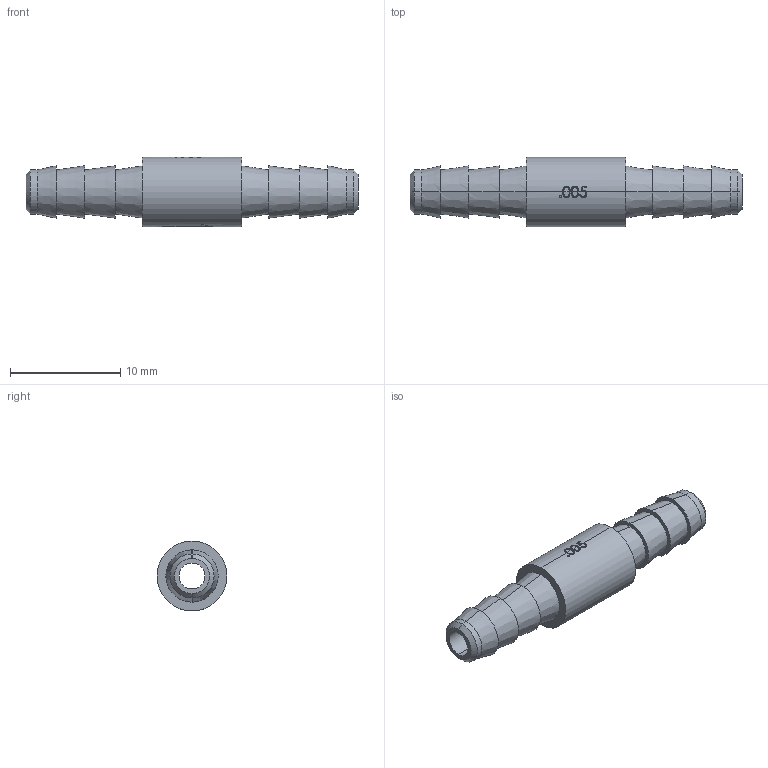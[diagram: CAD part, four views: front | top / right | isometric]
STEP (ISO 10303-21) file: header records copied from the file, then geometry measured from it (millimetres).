
FILE_DESCRIPTION(/* description */ ('SolidWorks IGES file using analytic representation for surfaces '),/* implementation_level */ '2;1');
FILE_NAME(/* name */ 'K:\Normteile INVENTOR\Air-Logic\Orifice restrictors\F-2815-050-B85.IGS.ipt.stp',/* time_stamp */ '2020-05-27T10:45:48+02:00',/* author */ ('cad'),/* organization */ (''),/* preprocessor_version */ 'ST-DEVELOPER v18',/* originating_system */ 'Autodesk Inventor 2020',/* authorisation */ '');
FILE_SCHEMA (('AUTOMOTIVE_DESIGN { 1 0 10303 214 3 1 1 }'));
Length unit declared in the file: millimetre
Products named in the file (1): F-2815-050-B85.IGS
Bounding box: 30.15 x 6.35 x 6.35 mm (x, y, z)
Surface area: 765 mm2 (no closed solid volume)
Topology: 0 solids, 93 shells, 93 faces, 453 edges, 453 vertices
Faces by surface type: bspline 34, cylinder 20, cone 20, plane 19
Entity records: 8745 total; most frequent: CARTESIAN_POINT 5306, DIRECTION 530, VERTEX_POINT 453, EDGE_CURVE 453, ORIENTED_EDGE 453, LINE 216, VECTOR 216, AXIS2_PLACEMENT_3D 157
